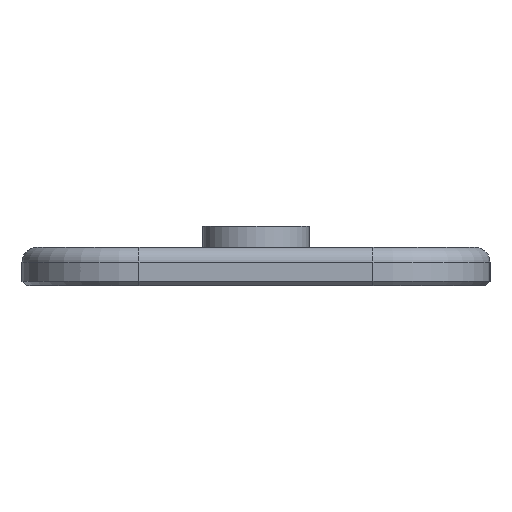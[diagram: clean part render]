
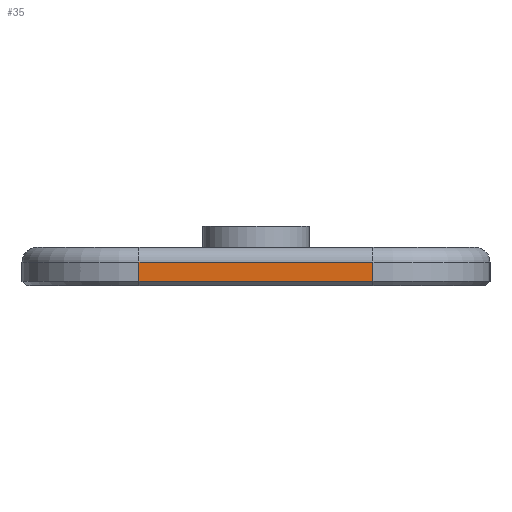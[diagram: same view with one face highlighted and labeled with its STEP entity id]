
A CAD part, left-side view. The second image highlights one B-rep face of the part: STEP entity #35.
In plain terms, the highlighted planar face has unit normal (-1, 0, 0).
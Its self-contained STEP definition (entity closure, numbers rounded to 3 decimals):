
#35 = ADVANCED_FACE('',(#36),#50,.T.);
#36 = FACE_BOUND('',#37,.T.);
#37 = EDGE_LOOP('',(#38,#73,#101,#129));
#38 = ORIENTED_EDGE('',*,*,#39,.T.);
#39 = EDGE_CURVE('',#40,#42,#44,.T.);
#40 = VERTEX_POINT('',#41);
#41 = CARTESIAN_POINT('',(-65.,-5.5,0.2));
#42 = VERTEX_POINT('',#43);
#43 = CARTESIAN_POINT('',(-65.,-5.5,1.1));
#44 = SURFACE_CURVE('',#45,(#49,#61),.PCURVE_S1.);
#45 = LINE('',#46,#47);
#46 = CARTESIAN_POINT('',(-65.,-5.5,0.));
#47 = VECTOR('',#48,1.);
#48 = DIRECTION('',(0.,0.,1.));
#49 = PCURVE('',#50,#55);
#50 = PLANE('',#51);
#51 = AXIS2_PLACEMENT_3D('',#52,#53,#54);
#52 = CARTESIAN_POINT('',(-65.,-5.5,0.));
#53 = DIRECTION('',(-1.,0.,0.));
#54 = DIRECTION('',(0.,1.,0.));
#55 = DEFINITIONAL_REPRESENTATION('',(#56),#60);
#56 = LINE('',#57,#58);
#57 = CARTESIAN_POINT('',(0.,0.));
#58 = VECTOR('',#59,1.);
#59 = DIRECTION('',(0.,-1.));
#60 = ( GEOMETRIC_REPRESENTATION_CONTEXT(2) 
PARAMETRIC_REPRESENTATION_CONTEXT() REPRESENTATION_CONTEXT('2D SPACE',''
  ) );
#61 = PCURVE('',#62,#67);
#62 = CYLINDRICAL_SURFACE('',#63,5.5);
#63 = AXIS2_PLACEMENT_3D('',#64,#65,#66);
#64 = CARTESIAN_POINT('',(-59.5,-5.5,0.));
#65 = DIRECTION('',(0.,0.,-1.));
#66 = DIRECTION('',(-1.,0.,0.));
#67 = DEFINITIONAL_REPRESENTATION('',(#68),#72);
#68 = LINE('',#69,#70);
#69 = CARTESIAN_POINT('',(6.283,0.));
#70 = VECTOR('',#71,1.);
#71 = DIRECTION('',(0.,-1.));
#72 = ( GEOMETRIC_REPRESENTATION_CONTEXT(2) 
PARAMETRIC_REPRESENTATION_CONTEXT() REPRESENTATION_CONTEXT('2D SPACE',''
  ) );
#73 = ORIENTED_EDGE('',*,*,#74,.T.);
#74 = EDGE_CURVE('',#42,#75,#77,.T.);
#75 = VERTEX_POINT('',#76);
#76 = CARTESIAN_POINT('',(-65.,5.5,1.1));
#77 = SURFACE_CURVE('',#78,(#82,#89),.PCURVE_S1.);
#78 = LINE('',#79,#80);
#79 = CARTESIAN_POINT('',(-65.,-5.5,1.1));
#80 = VECTOR('',#81,1.);
#81 = DIRECTION('',(0.,1.,0.));
#82 = PCURVE('',#50,#83);
#83 = DEFINITIONAL_REPRESENTATION('',(#84),#88);
#84 = LINE('',#85,#86);
#85 = CARTESIAN_POINT('',(0.,-1.1));
#86 = VECTOR('',#87,1.);
#87 = DIRECTION('',(1.,0.));
#88 = ( GEOMETRIC_REPRESENTATION_CONTEXT(2) 
PARAMETRIC_REPRESENTATION_CONTEXT() REPRESENTATION_CONTEXT('2D SPACE',''
  ) );
#89 = PCURVE('',#90,#95);
#90 = CYLINDRICAL_SURFACE('',#91,0.7);
#91 = AXIS2_PLACEMENT_3D('',#92,#93,#94);
#92 = CARTESIAN_POINT('',(-64.3,-5.5,1.1));
#93 = DIRECTION('',(0.,1.,0.));
#94 = DIRECTION('',(-1.,0.,0.));
#95 = DEFINITIONAL_REPRESENTATION('',(#96),#100);
#96 = LINE('',#97,#98);
#97 = CARTESIAN_POINT('',(0.,0.));
#98 = VECTOR('',#99,1.);
#99 = DIRECTION('',(0.,1.));
#100 = ( GEOMETRIC_REPRESENTATION_CONTEXT(2) 
PARAMETRIC_REPRESENTATION_CONTEXT() REPRESENTATION_CONTEXT('2D SPACE',''
  ) );
#101 = ORIENTED_EDGE('',*,*,#102,.F.);
#102 = EDGE_CURVE('',#103,#75,#105,.T.);
#103 = VERTEX_POINT('',#104);
#104 = CARTESIAN_POINT('',(-65.,5.5,0.2));
#105 = SURFACE_CURVE('',#106,(#110,#117),.PCURVE_S1.);
#106 = LINE('',#107,#108);
#107 = CARTESIAN_POINT('',(-65.,5.5,0.));
#108 = VECTOR('',#109,1.);
#109 = DIRECTION('',(0.,0.,1.));
#110 = PCURVE('',#50,#111);
#111 = DEFINITIONAL_REPRESENTATION('',(#112),#116);
#112 = LINE('',#113,#114);
#113 = CARTESIAN_POINT('',(11.,0.));
#114 = VECTOR('',#115,1.);
#115 = DIRECTION('',(0.,-1.));
#116 = ( GEOMETRIC_REPRESENTATION_CONTEXT(2) 
PARAMETRIC_REPRESENTATION_CONTEXT() REPRESENTATION_CONTEXT('2D SPACE',''
  ) );
#117 = PCURVE('',#118,#123);
#118 = CYLINDRICAL_SURFACE('',#119,5.5);
#119 = AXIS2_PLACEMENT_3D('',#120,#121,#122);
#120 = CARTESIAN_POINT('',(-59.5,5.5,0.));
#121 = DIRECTION('',(0.,0.,-1.));
#122 = DIRECTION('',(-1.,0.,0.));
#123 = DEFINITIONAL_REPRESENTATION('',(#124),#128);
#124 = LINE('',#125,#126);
#125 = CARTESIAN_POINT('',(0.,0.));
#126 = VECTOR('',#127,1.);
#127 = DIRECTION('',(0.,-1.));
#128 = ( GEOMETRIC_REPRESENTATION_CONTEXT(2) 
PARAMETRIC_REPRESENTATION_CONTEXT() REPRESENTATION_CONTEXT('2D SPACE',''
  ) );
#129 = ORIENTED_EDGE('',*,*,#130,.F.);
#130 = EDGE_CURVE('',#40,#103,#131,.T.);
#131 = SURFACE_CURVE('',#132,(#136,#143),.PCURVE_S1.);
#132 = LINE('',#133,#134);
#133 = CARTESIAN_POINT('',(-65.,-5.5,0.2));
#134 = VECTOR('',#135,1.);
#135 = DIRECTION('',(0.,1.,0.));
#136 = PCURVE('',#50,#137);
#137 = DEFINITIONAL_REPRESENTATION('',(#138),#142);
#138 = LINE('',#139,#140);
#139 = CARTESIAN_POINT('',(0.,-0.2));
#140 = VECTOR('',#141,1.);
#141 = DIRECTION('',(1.,0.));
#142 = ( GEOMETRIC_REPRESENTATION_CONTEXT(2) 
PARAMETRIC_REPRESENTATION_CONTEXT() REPRESENTATION_CONTEXT('2D SPACE',''
  ) );
#143 = PCURVE('',#144,#149);
#144 = PLANE('',#145);
#145 = AXIS2_PLACEMENT_3D('',#146,#147,#148);
#146 = CARTESIAN_POINT('',(-64.9,-5.5,0.1));
#147 = DIRECTION('',(0.707,0.,0.707)
  );
#148 = DIRECTION('',(0.,-1.,0.));
#149 = DEFINITIONAL_REPRESENTATION('',(#150),#154);
#150 = LINE('',#151,#152);
#151 = CARTESIAN_POINT('',(-0.,-0.141));
#152 = VECTOR('',#153,1.);
#153 = DIRECTION('',(-1.,0.));
#154 = ( GEOMETRIC_REPRESENTATION_CONTEXT(2) 
PARAMETRIC_REPRESENTATION_CONTEXT() REPRESENTATION_CONTEXT('2D SPACE',''
  ) );
